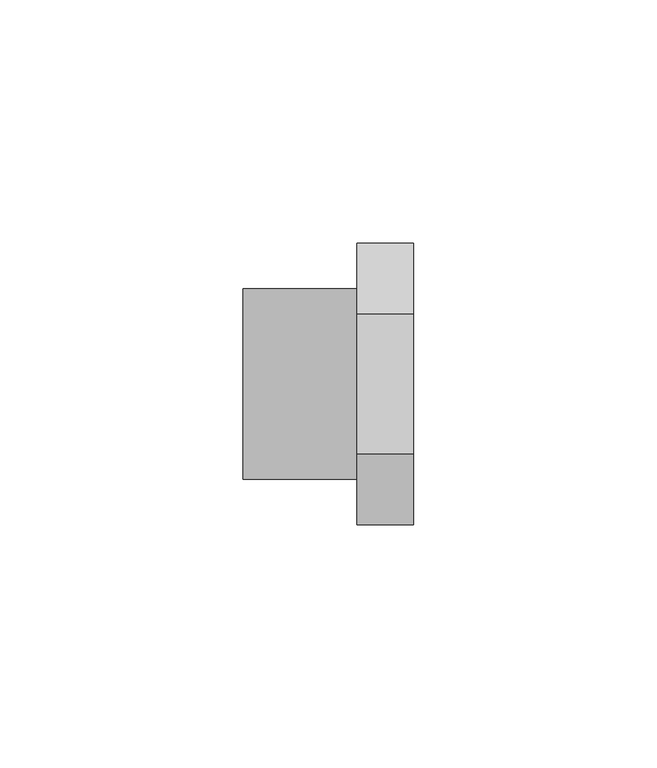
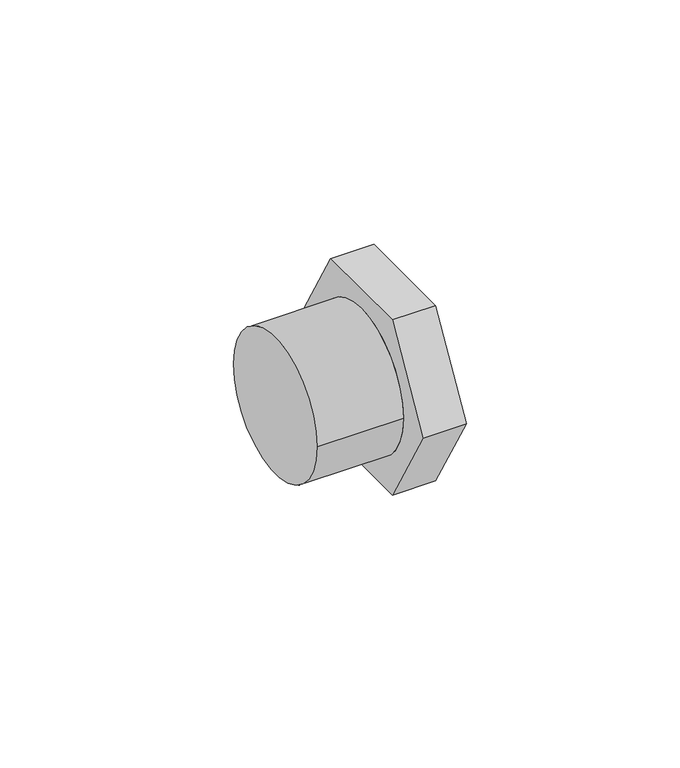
"""IFC4 building model written with IfcOpenShell, lengths in millimetres: pipe fitting geometry, 01011011 : Tapones M."""

from ifc_helpers import new_model, si_unit, point, frame, origin, origin_2d, place, context, project, spatial, circle_curve, trimmed, segment, composite_curve, outline, extrude, source, transform, mapped, element, save
from ifc_brep_helpers import plane_surface, cylinder_surface, advanced_brep


def pipe_fitting_1b4f63a7(model_context):
    return source(origin(), model_context, "Body", "SolidModel", [
        extrude(outline(composite_curve([segment(trimmed(circle_curve(origin_2d(), 19.525), [point((-19.525, 0.0))], [point((19.525, 0.0))], False, "CARTESIAN"), True, "CONTINUOUS"), segment(trimmed(circle_curve(origin_2d(), 19.525), [point((19.525, 0.0))], [point((-19.525, 0.0))], False, "CARTESIAN"), True, "CONTINUOUS")], self_intersect=False)), frame((0.0, 0.0, 0.0), z_axis=(1.0, 0.0, 0.0), x_axis=(0.0, 1.0, 0.0)), (0.0, 0.0, 1.0), 23.3333333),
        advanced_brep(
        [(35.0, -14.4337567, 25.0), (35.0, -28.8675135, 0.0), (35.0, -14.4337567, -25.0), (35.0, 14.4337567, -25.0), (35.0, 28.8675135, 0.0), (35.0, 14.4337567, 25.0), (23.3333333, -14.4337567, 25.0), (23.3333333, 14.4337567, 25.0), (23.3333333, 28.8675135, 0.0), (23.3333333, 14.4337567, -25.0), (23.3333333, -14.4337567, -25.0), (23.3333333, -28.8675135, 0.0), (23.3333333, 19.525, 0.0), (23.3333333, -19.525, 0.0), (0.0, -19.525, 0.0), (0.0, 19.525, 0.0)],
        [
            (0, 1),
            (1, 2),
            (2, 3),
            (3, 4),
            (4, 5),
            (5, 0),
            (6, 7),
            (7, 8),
            (8, 9),
            (9, 10),
            (10, 11),
            (11, 6),
            (12, 13, circle_curve(frame((23.3333333, 0.0, 0.0), z_axis=(1.0, 0.0, 0.0), x_axis=(0.0, 1.0, 0.0)), 19.525)),
            (13, 12, circle_curve(frame((23.3333333, 0.0, 0.0), z_axis=(1.0, 0.0, 0.0), x_axis=(0.0, 1.0, 0.0)), 19.525)),
            (0, 6),
            (11, 1),
            (10, 2),
            (9, 3),
            (8, 4),
            (7, 5),
            (14, 15, circle_curve(frame((0.0, 0.0, 0.0), z_axis=(-1.0, 0.0, 0.0), x_axis=(0.0, 1.0, 0.0)), 19.525)),
            (15, 14, circle_curve(frame((0.0, 0.0, 0.0), z_axis=(-1.0, 0.0, 0.0), x_axis=(0.0, 1.0, 0.0)), 19.525)),
            (14, 13),
            (12, 15),
        ],
        [
            plane_surface(frame((35.0, -14.4337567, 25.0), z_axis=(1.0, 0.0, 0.0), x_axis=(0.0, -0.5000000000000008, -0.8660254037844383))),
            plane_surface(frame((23.3333333, -14.4337567, 25.0), z_axis=(-1.0, 0.0, 0.0), x_axis=(0.0, 0.5000000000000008, 0.8660254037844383))),
            plane_surface(frame((35.0, -14.4337567, 25.0), z_axis=(0.0, -0.8660254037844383, 0.5000000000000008), x_axis=(-1.0, 0.0, 0.0))),
            plane_surface(frame((35.0, -28.8675135, 0.0), z_axis=(0.0, -0.8660254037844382, -0.5000000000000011), x_axis=(-1.0, 0.0, 0.0))),
            plane_surface(frame((35.0, -14.4337567, -25.0), z_axis=(0.0, 0.0, -1.0), x_axis=(-1.0, 0.0, 0.0))),
            plane_surface(frame((35.0, 14.4337567, -25.0), z_axis=(0.0, 0.8660254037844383, -0.5000000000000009), x_axis=(-1.0, 0.0, 0.0))),
            plane_surface(frame((35.0, 28.8675135, 0.0), z_axis=(0.0, 0.866025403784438, 0.5000000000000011), x_axis=(-1.0, 0.0, 0.0))),
            plane_surface(frame((35.0, 14.4337567, 25.0), z_axis=(0.0, 0.0, 1.0), x_axis=(-1.0, 0.0, 0.0))),
            plane_surface(frame((0.0, 0.0, 0.0), z_axis=(-1.0, 0.0, 0.0), x_axis=(0.0, 0.0, 1.0))),
            cylinder_surface(frame((0.0, 0.0, 0.0), z_axis=(-1.0, 0.0, 0.0), x_axis=(0.0, 1.0, 0.0)), 19.525),
        ],
        [
            (0, [[1, 2, 3, 4, 5, 6]]),
            (1, [[7, 8, 9, 10, 11, 12], [13, 14]]),
            (2, [[-1, 15, -12, 16]]),
            (3, [[-2, -16, -11, 17]]),
            (4, [[-3, -17, -10, 18]]),
            (5, [[-4, -18, -9, 19]]),
            (6, [[-5, -19, -8, 20]]),
            (7, [[-6, -20, -7, -15]]),
            (8, [[21, 22]]),
            (9, [[-21, 23, -13, 24]]),
            (9, [[-22, -24, -14, -23]]),
        ],
    ),
    ])


if __name__ == "__main__":
    model = new_model("IFC4")
    model_context = context("Model", 3, world=origin())
    ifc_project = project(units=[si_unit("LENGTHUNIT", "METRE", prefix="MILLI")], contexts=[model_context])
    site = spatial("IfcSite", under=ifc_project)
    building = spatial("IfcBuilding", under=site)
    placement = place(None, origin())
    pipe_fitting_shape = pipe_fitting_1b4f63a7(model_context)
    element("IfcPipeFitting", 1, ObjectType="01011011 : Tapones M", at=placement, inside=building, context=model_context, shape_type="MappedRepresentation", body=[
        mapped(pipe_fitting_shape, transform((0.0, 0.0, 0.0), x_axis=(1.0, 0.0, 0.0), y_axis=(0.0, 1.0, 0.0), z_axis=(0.0, 0.0, 1.0))),
    ])
    save(model, "model.ifc")
